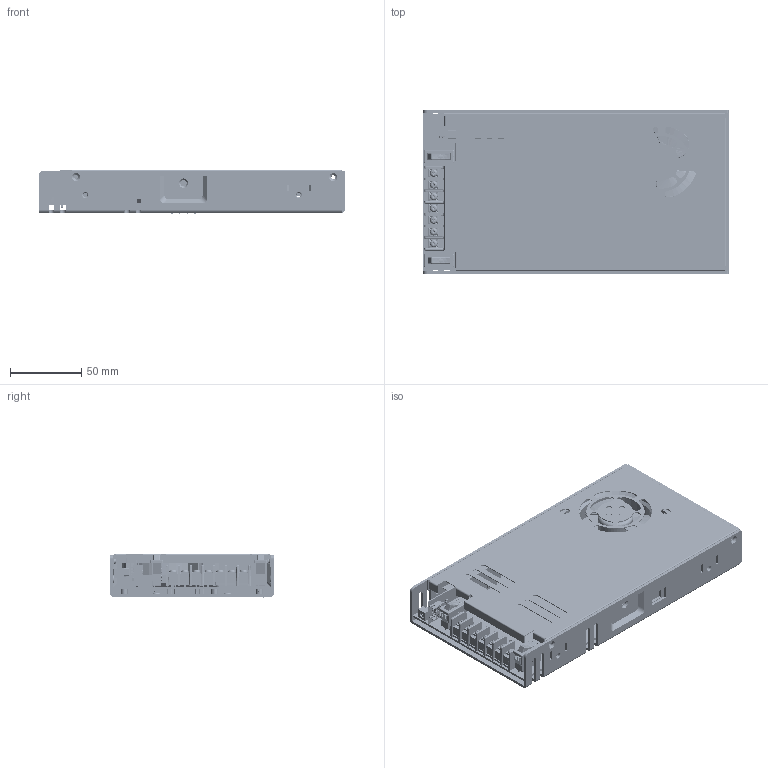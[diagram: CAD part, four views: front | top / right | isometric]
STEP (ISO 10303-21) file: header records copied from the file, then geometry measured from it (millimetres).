
FILE_DESCRIPTION(('Creo Elements/Direct Modeling STEP Export'),'2;1');
FILE_NAME('LAD-360.stp','2022-10-11T14:58:29',(''),(''),'PTC Creo Elements/Direct Modeling STEP processor for AP214 (Solid Model)','PTC Creo Elements/Direct Modeling 19.0E 27-Jun-2016 (C) Parametric Technology GmbH','');
FILE_SCHEMA(('AUTOMOTIVE_DESIGN { 1 0 10303 214 1 1 1 1 }'));
Length unit declared in the file: millimetre
Products named in the file (218): PCBA; FAN_4715KL40WB30_2.1; FAN_4715KL40WB30_2; FAN-ALL; DG35S-B-07P-13-32A_H_.prt; DG35S-B-07P-13-32A_H_.stp; uu.3; 63; 55; 1HH2LAD-360; a1.1; BOTTOM-CASE; TOP-CASE; MOS15.5x10.1.1.1.1.1.1.1.1.1.2.1.1; mos; 3024-K5P10T3SB05BKBK.prt; GF063X.1; 3024-K5P10T3SB05BKBK.stp; 3024-K5P10T3SB05BKBK.prt.1; 装配1; LRS-350; LRS-350.stp; BOARD.PRT; 755588936_1.PRT; 755588936_2.PRT; 755588936_3.PRT; 755588936_4.PRT; 755588936.ASM; R415.ASM; EXTRUDED-15816.PRT; 984337296.ASM.23; EXTRUDED-16188.PRT; 984337136.ASM.24; EXTRUDED-16580.PRT; 984336976.ASM.20; CN1.ASM; CN6.ASM; 755589240_1.PRT; 755589240_2.PRT; 755589240_3.PRT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
Assembly tree (346 placements, depth 5):
  LRS-350.stp
    LRS-350
      装配1
        3024-K5P10T3SB05BKBK.prt.1
        3024-K5P10T3SB05BKBK.stp
          GF063X.1
          3024-K5P10T3SB05BKBK.prt
      mos
        MOS15.5x10.1.1.1.1.1.1.1.1.1.2.1.1  x5
      TOP-CASE
      BOTTOM-CASE
      a1.1
        1HH2LAD-360
        55
        63
        uu.3
        DG35S-B-07P-13-32A_H_.stp
          DG35S-B-07P-13-32A_H_.prt
        FAN-ALL
          FAN_4715KL40WB30_2
          FAN_4715KL40WB30_2.1
        PCBA
  LAD-360B-R0.step
    PCB.ASM
      SHR7.ASM
        2CDX-SOT23.PRT
      R502.ASM
        755588936.ASM
          755588936_4.PRT
          755588936_3.PRT
          755588936_2.PRT
          755588936_1.PRT
      R501.ASM
        755589392.ASM
          755589392_4.PRT
          755589392_3.PRT
          755589392_2.PRT
          755589392_1.PRT
      R500.ASM
        755597448.ASM
          755597448_4.PRT
          755597448_3.PRT
          755597448_2.PRT
          755597448_1.PRT
      C401.ASM
        975448152.PRT
      D414.ASM
        2CDX-SOD323.PRT
      D421.ASM
        842891152.ASM  x2
          EXTRUDED-184630.PRT
        842892432.ASM
          EXTRUDED-185379.PRT
        2CUX-SOD123.ASM
          EXTRUDED-217448.PRT
      U401.ASM
        2CUX-SOIC-14.PRT
      R480.ASM
        755589088.ASM
          755589088_4.PRT
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Bounding box: 215 x 115 x 30.9 mm (x, y, z)
Volume: 169874.4 mm3; surface area: 218450.3 mm2
Topology: 361 solids, 375 shells, 15919 faces, 42453 edges, 27863 vertices
Faces by surface type: plane 10690, extrusion 2898, cylinder 1798, torus 227, sphere 196, bspline 84, cone 26
Entity records: 346317 total; most frequent: CARTESIAN_POINT 78540, ORIENTED_EDGE 47160, DIRECTION 41638, EDGE_CURVE 23580, VECTOR 19582, LINE 19173, VERTEX_POINT 15413, AXIS2_PLACEMENT_3D 11028
